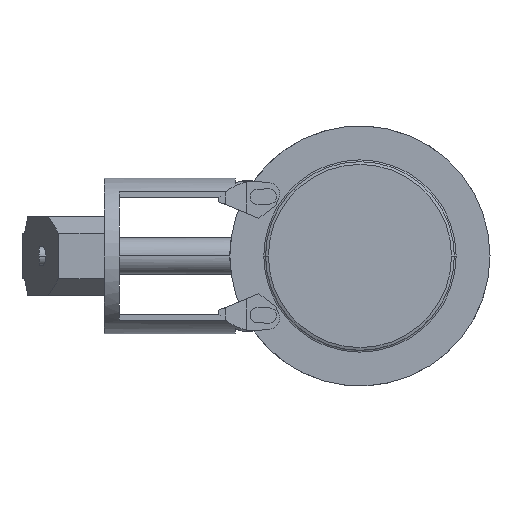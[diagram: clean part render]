
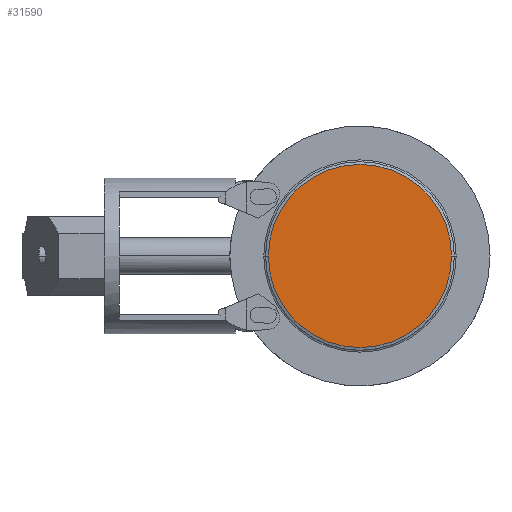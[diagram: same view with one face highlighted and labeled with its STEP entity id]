
A CAD part, left-side view. The second image highlights one B-rep face of the part: STEP entity #31590.
In plain terms, the highlighted planar face has unit normal (-1, 0, 0).
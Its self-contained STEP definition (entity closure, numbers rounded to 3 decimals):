
#31390=CARTESIAN_POINT('',(-161.326,-8.106,
-34.898));
#31400=DIRECTION('',(-1.,0.,0.));
#31410=DIRECTION('',(0.,1.,0.));
#31420=AXIS2_PLACEMENT_3D('',#31390,#31400,#31410);
#31430=PLANE('',#31420);
#31440=CARTESIAN_POINT('',(-161.326,38.306,0.));
#31450=DIRECTION('',(-1.,0.,0.));
#31460=DIRECTION('',(0.,1.,0.));
#31470=AXIS2_PLACEMENT_3D('',#31440,#31450,#31460);
#31480=CIRCLE('',#31470,50.);
#31490=CARTESIAN_POINT('',(-161.326,-11.694,
0.));
#31500=VERTEX_POINT('',#31490);
#31510=CARTESIAN_POINT('',(-161.326,88.306,0.));
#31520=VERTEX_POINT('',#31510);
#31530=EDGE_CURVE('',#31500,#31520,#31480,.T.);
#31540=ORIENTED_EDGE('',*,*,#31530,.T.);
#31550=EDGE_CURVE('',#31520,#31500,#31480,.T.);
#31560=ORIENTED_EDGE('',*,*,#31550,.T.);
#31570=EDGE_LOOP('',(#31560,#31540));
#31580=FACE_OUTER_BOUND('',#31570,.T.);
#31590=ADVANCED_FACE('',(#31580),#31430,.T.);
